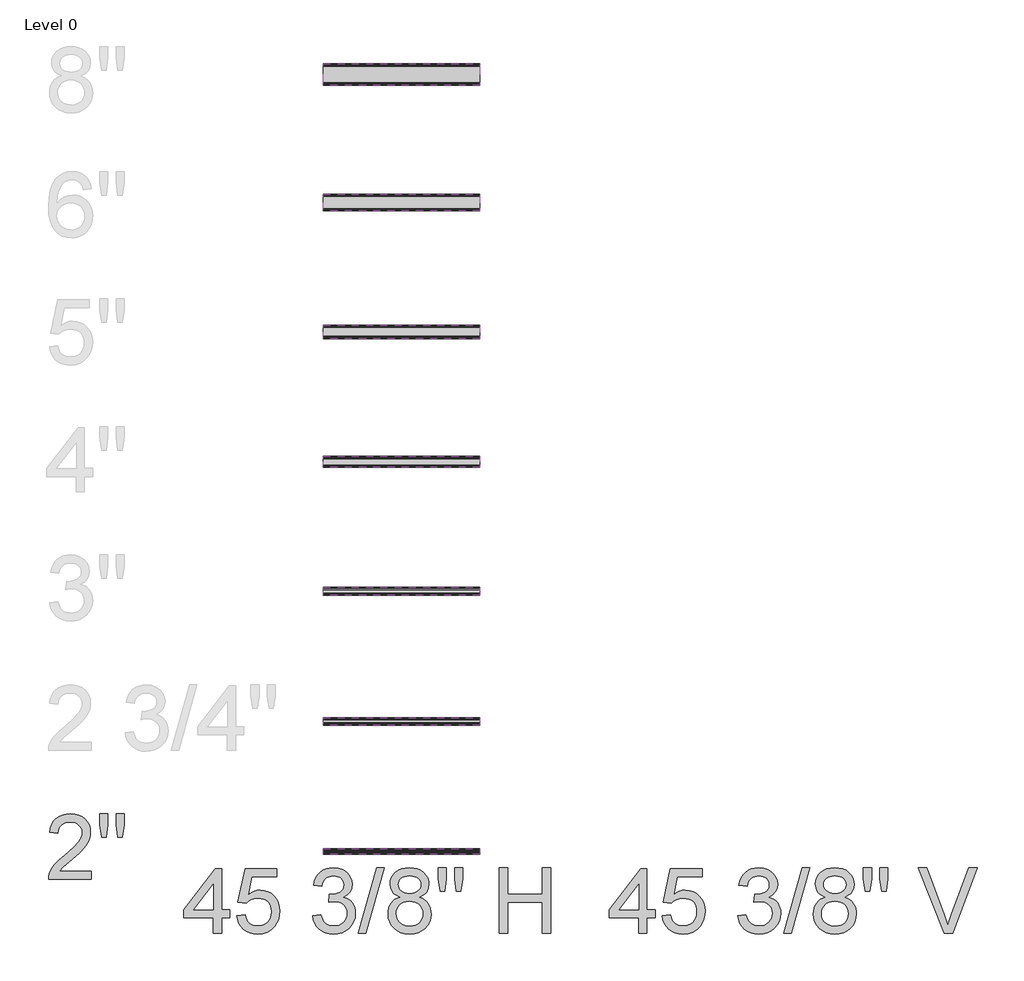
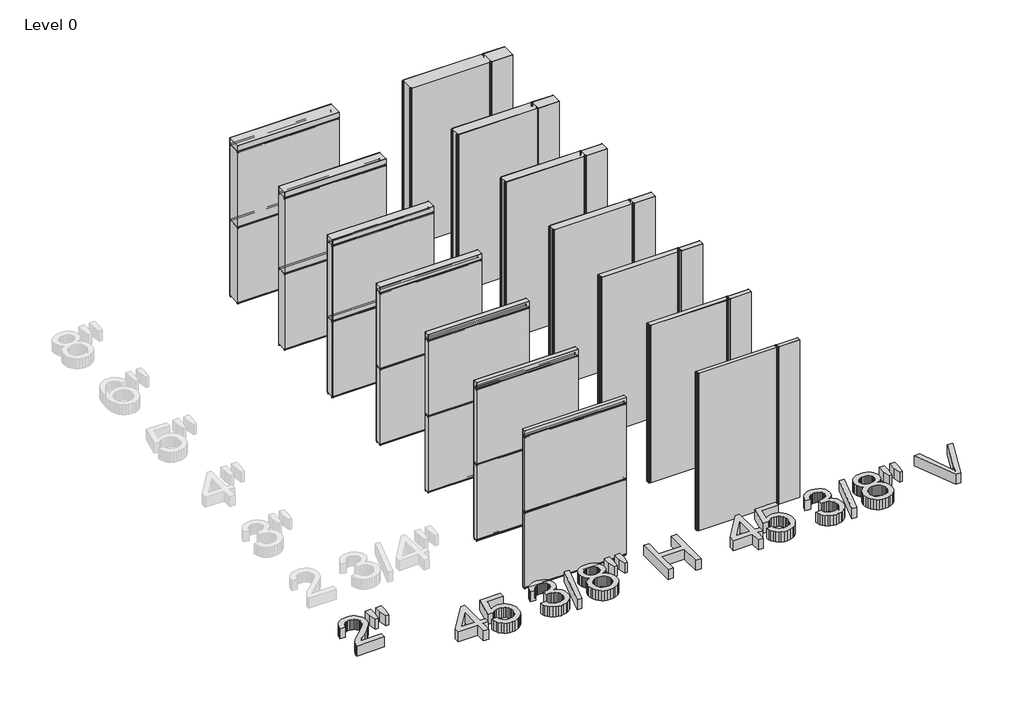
# One storey, part 1 of 4: 35 plates, 3 proxies.
"""IFC4 building model written with IfcOpenShell, lengths in millimetres."""

from ifc_helpers import new_model, si_unit, origin, origin_with_axes, place, context, project, spatial, polyline, outline, extrude, transform, mapped, element, save
from components import plate_8ef68199, plate_0830cc51, plate_e03a2b05, plate_9613dffa, plate_0367c04b, plate_f03471cd, plate_175a63a8, plate_484589e4, plate_8e9a1042, plate_46142d81, plate_aa5ba04c, plate_8ed5a4c8, plate_5a65601d, plate_65289337, plate_b911fb24, plate_469c2459, plate_55986730, plate_2b2a99c2, plate_3d51e600, plate_75d355eb, plate_b617b0d5, plate_914df59f, plate_c1554952, plate_3d7bb654, plate_006a10f5, plate_ea97ee9e, plate_32e445c0, plate_b4aca6f2

model = new_model("IFC4")

# Units and contexts
model_context = context("Model", 3, world=origin())
ifc_project = project(units=[si_unit("LENGTHUNIT", "METRE", prefix="MILLI")], contexts=[model_context])

# Site, building, storey
site = spatial("IfcSite", under=ifc_project)
building = spatial("IfcBuilding", under=site)
storey = spatial("IfcBuildingStorey", under=building, Name="Level 0", Elevation=0.0)

# Proxies
placement = place(None, origin())
element("IfcBuildingElementProxy", 1, Name="24\" Arial", ObjectType="24\" Arial", at=placement, inside=storey, context=model_context, shape_type="SweptSolid", body=[
    extrude(outline(polyline([(-10202.2863907, 6438.6033745), (-10202.2863907, 6581.3691999), (-10478.3003197, 6581.3691999), (-10478.3003197, 6657.5109734), (-10183.2509473, 7038.219841), (-10126.1446171, 7038.219841), (-10126.1446171, 6657.5109734), (-10050.0028436, 6657.5109734), (-10050.0028436, 6581.3691999), (-10126.1446171, 6581.3691999), (-10126.1446171, 6438.6033745), (-10202.2863907, 6438.6033745)]), holes=[polyline([(-10202.2863907, 6657.5109734), (-10202.2863907, 6892.7771564), (-10384.6102468, 6657.5109734), (-10202.2863907, 6657.5109734)])]), origin_with_axes(), (0.0, 0.0, 1.0), 152.4),
    extrude(outline(polyline([(-9983.3787918, 6600.4046433), (-9907.2370183, 6609.922365), (-9901.5486924, 6585.4449039), (-9893.2578645, 6564.2112758), (-9882.3645346, 6546.2214806), (-9868.8687027, 6531.4755182), (-9852.7982527, 6519.991978), (-9834.1810686, 6511.7894493), (-9813.0171503, 6506.8679321), (-9789.306498, 6505.2274264), (-9760.3071897, 6507.509263), (-9734.7283126, 6514.3547728), (-9712.5698668, 6525.7639557), (-9693.8318523, 6541.7368119), (-9678.9325282, 6561.483296), (-9668.2901538, 6584.2133628), (-9661.9047292, 6609.9270123), (-9659.7762543, 6638.6242444), (-9661.7699568, 6665.7460334), (-9667.7510641, 6689.8563557), (-9677.7195763, 6710.9552114), (-9691.6754934, 6729.0426005), (-9709.6652887, 6743.5515493), (-9731.7354353, 6753.9150841), (-9757.8859333, 6760.133205), (-9788.1167828, 6762.205912), (-9825.0537222, 6758.8970166), (-9854.9639062, 6748.9703303), (-9878.8511569, 6733.7642827), (-9897.7192966, 6714.6173035), (-9973.8610701, 6724.1350252), (-9907.2370183, 7038.219841), (-9612.1876459, 7038.219841), (-9612.1876459, 6962.0780675), (-9845.6692561, 6962.0780675), (-9878.23771, 6794.3282227), (-9851.3668766, 6813.5867377), (-9823.8454177, 6827.3428198), (-9795.6733333, 6835.5964691), (-9766.8506234, 6838.3476855), (-9729.7696168, 6834.9365489), (-9695.7093716, 6824.7031392), (-9664.6698876, 6807.6474563), (-9636.6511649, 6783.7695002), (-9613.4563656, 6754.528531), (-9596.8886519, 6721.3838088), (-9586.9480236, 6684.3353336), (-9583.6344808, 6643.3831053), (-9586.6180635, 6603.9366103), (-9595.5688115, 6567.2413317), (-9610.4867249, 6533.2972696), (-9631.3718037, 6502.1044239), (-9663.0107926, 6470.1587116), (-9699.9291427, 6447.3403456), (-9742.1268541, 6433.649326), (-9789.6039268, 6429.0856528), (-9828.89706, 6432.018115), (-9864.3886814, 6440.8155013), (-9896.0787908, 6455.4778118), (-9923.9673884, 6476.0050465), (-9947.1714824, 6501.3747939), (-9964.8080809, 6530.5646425), (-9976.8771841, 6563.5745923), (-9983.3787918, 6600.4046433)])), origin_with_axes(), (0.0, 0.0, 1.0), 152.4),
    extrude(outline(polyline([(-9279.0673868, 6600.4046433), (-9202.9256132, 6609.922365), (-9185.879225, 6562.0735063), (-9174.3863901, 6543.9768226), (-9160.9137948, 6529.7653026), (-9145.1547156, 6519.0299817), (-9126.802429, 6511.3618954), (-9105.8569351, 6506.7610436), (-9082.3182337, 6505.2274264), (-9054.7317122, 6507.3373119), (-9030.1194788, 6513.6669686), (-9008.4815334, 6524.2163965), (-8989.817876, 6538.9855955), (-8974.7884268, 6556.8685023), (-8964.053106, 6576.7590534), (-8957.6119135, 6598.657249), (-8955.4648493, 6622.5630891), (-8957.5933242, 6645.3303345), (-8963.9787488, 6666.0434622), (-8974.6211231, 6684.7024722), (-8989.5204472, 6701.3073646), (-9007.7007828, 6714.937969), (-9028.1861916, 6724.6741149), (-9050.9766736, 6730.5158025), (-9076.0722288, 6732.4630317), (-9100.1267833, 6730.3810301), (-9129.4606989, 6724.1350252), (-9120.9839781, 6800.2767987), (-9108.7893972, 6799.3845123), (-9063.1712545, 6804.8497666), (-9022.3863299, 6821.2455293), (-9005.6001919, 6833.6445926), (-8993.6100933, 6848.9807652), (-8986.4160341, 6867.2540473), (-8984.0180144, 6888.4644388), (-8985.7561139, 6905.6827781), (-8990.9704126, 6921.3489108), (-8999.6609105, 6935.4628369), (-9011.8276074, 6948.0245565), (-9026.7362262, 6958.3369708), (-9043.6524893, 6965.702981), (-9062.5763969, 6970.1225871), (-9083.5079489, 6971.5957892), (-9104.383733, 6970.1086451), (-9123.4377657, 6965.6472131), (-9140.670047, 6958.211493), (-9156.0805768, 6947.8014849), (-9169.2882746, 6934.4171888), (-9179.9120596, 6918.0586047), (-9187.9519319, 6898.7257325), (-9193.4078916, 6876.4185723), (-9269.5496651, 6885.936294), (-9260.5245598, 6922.2876704), (-9247.1309691, 6954.30774), (-9229.3688927, 6981.9965026), (-9207.2383309, 7005.3539583), (-9181.4363822, 7023.8967852), (-9152.6601456, 7037.1416616), (-9120.9096209, 7045.0885874), (-9086.1848081, 7047.7375627), (-9038.3173602, 7042.5139693), (-8994.3536653, 7026.8431893), (-8957.2866007, 7002.11942), (-8930.1090439, 6969.7368591), (-8913.4344416, 6932.4281337), (-8907.8762409, 6892.9258708), (-8913.1556021, 6856.1190565), (-8928.9936859, 6822.7326734), (-8955.1674205, 6794.2910441), (-8991.4537344, 6772.3184913), (-8966.0793397, 6764.3808601), (-8943.7907688, 6753.0599763), (-8924.5880217, 6738.3558399), (-8908.4710985, 6720.2684508), (-8895.7188385, 6699.2439523), (-8886.6100815, 6675.7284876), (-8881.1448272, 6649.7220566), (-8879.3230758, 6621.2246595), (-8882.9665786, 6582.5960937), (-8893.8970871, 6547.0161732), (-8912.1146013, 6514.4848979), (-8937.6191211, 6485.0022678), (-8968.6911364, 6460.5387487), (-9003.6111368, 6443.0648066), (-9042.3791223, 6432.5804413), (-9084.9950929, 6429.0856528), (-9123.5121229, 6432.0692355), (-9158.6087216, 6441.0199836), (-9190.2848891, 6455.937897), (-9218.5406254, 6476.8229757), (-9242.2326885, 6502.448326), (-9260.2178364, 6531.587054), (-9272.4960691, 6564.2391598), (-9279.0673868, 6600.4046433)])), origin_with_axes(), (0.0, 0.0, 1.0), 152.4),
    extrude(outline(polyline([(-8850.7699107, 6438.6033745), (-8679.4509203, 7047.7375627), (-8610.7448669, 7047.7375627), (-8782.0638573, 6438.6033745), (-8850.7699107, 6438.6033745)])), origin_with_axes(), (0.0, 0.0, 1.0), 152.4),
    extrude(outline(polyline([(-8463.8150383, 6774.1030641), (-8504.5813736, 6794.1795083), (-8520.4055153, 6806.8945896), (-8533.1903065, 6821.3942437), (-8543.047283, 6837.5390509), (-8550.0879804, 6855.1895915), (-8555.7205383, 6895.0078724), (-8552.6533038, 6926.0612984), (-8543.4516002, 6954.5308116), (-8528.1154276, 6980.4164121), (-8506.6447859, 7003.7180999), (-8480.0713813, 7022.9766148), (-8449.4269199, 7036.732697), (-8414.7114019, 7044.9863462), (-8375.9248271, 7047.7375627), (-8336.9523592, 7044.9212837), (-8301.976591, 7036.4724468), (-8270.9975222, 7022.3910519), (-8244.015153, 7002.677099), (-8222.154136, 6978.9199734), (-8206.5391239, 6952.7090602), (-8197.1701166, 6924.0443593), (-8194.0471141, 6892.9258708), (-8199.6053149, 6854.3902516), (-8216.2799171, 6821.1711721), (-8228.8323421, 6806.7691118), (-8244.2568139, 6794.1237404), (-8283.7218982, 6774.1030641), (-8258.6960528, 6763.4560424), (-8236.8582724, 6749.9555632), (-8218.208557, 6733.6016263), (-8202.7469066, 6714.3942319), (-8190.6127409, 6692.7609339), (-8181.9454797, 6669.129286), (-8176.745123, 6643.4992884), (-8175.0116708, 6615.870941), (-8178.4506913, 6577.8930007), (-8188.7677529, 6543.0752415), (-8205.9628556, 6511.4176633), (-8230.0359993, 6482.9202662), (-8259.7231117, 6459.3676228), (-8293.7601203, 6442.5443062), (-8332.1470251, 6432.4503162), (-8374.8838262, 6429.0856528), (-8417.6206273, 6432.4642582), (-8456.0075322, 6442.6000741), (-8490.0445408, 6459.4931006), (-8519.7316532, 6483.1433378), (-8543.8047969, 6511.8405699), (-8560.9998996, 6543.8745814), (-8571.3169612, 6579.2453723), (-8574.7559817, 6617.9529426), (-8572.9528196, 6646.8407151), (-8567.5433333, 6673.2746999), (-8558.5275227, 6697.2548972), (-8545.9053879, 6718.7813068), (-8529.9557683, 6737.4635535), (-8510.9575035, 6752.9112619), (-8488.9105935, 6765.1244321), (-8463.8150383, 6774.1030641)]), holes=[polyline([(-8479.5787648, 6892.7771564), (-8477.8917858, 6875.3218036), (-8472.8308489, 6859.5394877), (-8464.3959539, 6845.4302089), (-8452.587101, 6832.9939671), (-8437.5530045, 6822.8442092), (-8419.4423788, 6815.5943821), (-8398.2552239, 6811.2444858), (-8373.9915398, 6809.7945204), (-8350.3273607, 6811.2351912), (-8329.600291, 6815.5572035), (-8311.8103307, 6822.7605573), (-8296.9574799, 6832.8452527), (-8285.2462208, 6845.0212443), (-8276.8810357, 6858.4984869), (-8271.8619247, 6873.2769805), (-8270.1888877, 6889.3567252), (-8271.9176926, 6906.0638587), (-8277.1041073, 6921.3860894), (-8285.7481319, 6935.3234172), (-8297.8497663, 6947.8758421), (-8313.0372246, 6958.253319), (-8330.9387206, 6965.6658024), (-8351.5542545, 6970.1132925), (-8374.8838262, 6971.5957892), (-8398.3946436, 6970.1458237), (-8419.1077714, 6965.7959275), (-8437.0232094, 6958.5461004), (-8452.1409578, 6948.3963425), (-8464.1449984, 6936.2203509), (-8472.7193131, 6922.8918227), (-8477.8639019, 6908.4107579), (-8479.5787648, 6892.7771564)]), polyline([(-8498.6142082, 6620.6298019), (-8495.4354379, 6591.5003685), (-8485.8991269, 6563.3004001), (-8468.2950596, 6538.706756), (-8440.9130205, 6520.3962953), (-8408.121495, 6509.0196436), (-8374.2889686, 6505.2274264), (-8346.7582151, 6507.2211288), (-8322.4619997, 6513.2022361), (-8301.4003226, 6523.1707484), (-8283.5731838, 6537.1266655), (-8269.3895477, 6554.1591118), (-8259.2583792, 6573.3572115), (-8253.179678, 6594.7209647), (-8251.1534443, 6618.2503714), (-8253.2447405, 6642.1562115), (-8259.5186294, 6663.9056927), (-8269.9751107, 6683.498815), (-8284.6141846, 6700.9355786), (-8302.9246453, 6715.2493397), (-8324.395287, 6725.4734548), (-8349.0261097, 6731.6079239), (-8376.8171135, 6733.6527469), (-8403.9435497, 6731.6358078), (-8427.9190996, 6725.5849906), (-8448.7437632, 6715.5002953), (-8466.4175403, 6701.3817218), (-8480.5035825, 6684.2330924), (-8490.5650412, 6665.0582293), (-8496.6019165, 6643.8571324), (-8498.6142082, 6620.6298019)])]), origin_with_axes(), (0.0, 0.0, 1.0), 152.4),
    extrude(outline(polyline([(-8089.7983188, 6828.8299638), (-8108.3876189, 6946.4630553), (-8108.3876189, 7047.7375627), (-8032.2458454, 7047.7375627), (-8032.2458454, 6946.4630553), (-8048.9018584, 6828.8299638), (-8089.7983188, 6828.8299638)])), origin_with_axes(), (0.0, 0.0, 1.0), 152.4),
    extrude(outline(polyline([(-7937.9609149, 6828.8299638), (-7956.1040719, 6946.4630553), (-7956.1040719, 7047.7375627), (-7879.9622984, 7047.7375627), (-7879.9622984, 6946.4630553), (-7897.8080265, 6828.8299638), (-7937.9609149, 6828.8299638)])), origin_with_axes(), (0.0, 0.0, 1.0), 152.4),
    extrude(outline(polyline([(-7537.3243176, 6438.6033745), (-7537.3243176, 7047.7375627), (-7461.182544, 7047.7375627), (-7461.182544, 6800.2767987), (-7137.5800066, 6800.2767987), (-7137.5800066, 7047.7375627), (-7061.4382331, 7047.7375627), (-7061.4382331, 6438.6033745), (-7137.5800066, 6438.6033745), (-7137.5800066, 6724.1350252), (-7461.182544, 6724.1350252), (-7461.182544, 6438.6033745), (-7537.3243176, 6438.6033745)])), origin_with_axes(), (0.0, 0.0, 1.0), 152.4),
])
element("IfcBuildingElementProxy", 2, Name="24\" Arial", ObjectType="24\" Arial", at=placement, inside=storey, context=model_context, shape_type="SweptSolid", body=[
    extrude(outline(polyline([(-6239.8863907, 6438.6033745), (-6239.8863907, 6581.3691999), (-6515.9003197, 6581.3691999), (-6515.9003197, 6657.5109734), (-6220.8509473, 7038.219841), (-6163.7446171, 7038.219841), (-6163.7446171, 6657.5109734), (-6087.6028436, 6657.5109734), (-6087.6028436, 6581.3691999), (-6163.7446171, 6581.3691999), (-6163.7446171, 6438.6033745), (-6239.8863907, 6438.6033745)]), holes=[polyline([(-6239.8863907, 6657.5109734), (-6239.8863907, 6892.7771564), (-6422.2102468, 6657.5109734), (-6239.8863907, 6657.5109734)])]), origin_with_axes(), (0.0, 0.0, 1.0), 152.4),
    extrude(outline(polyline([(-6020.9787918, 6600.4046433), (-5944.8370183, 6609.922365), (-5939.1486924, 6585.4449039), (-5930.8578645, 6564.2112758), (-5919.9645346, 6546.2214806), (-5906.4687027, 6531.4755182), (-5890.3982527, 6519.991978), (-5871.7810686, 6511.7894493), (-5850.6171503, 6506.8679321), (-5826.906498, 6505.2274264), (-5797.9071897, 6507.509263), (-5772.3283126, 6514.3547728), (-5750.1698668, 6525.7639557), (-5731.4318523, 6541.7368119), (-5716.5325282, 6561.483296), (-5705.8901538, 6584.2133628), (-5699.5047292, 6609.9270123), (-5697.3762543, 6638.6242444), (-5699.3699568, 6665.7460334), (-5705.3510641, 6689.8563557), (-5715.3195763, 6710.9552114), (-5729.2754934, 6729.0426005), (-5747.2652887, 6743.5515493), (-5769.3354353, 6753.9150841), (-5795.4859333, 6760.133205), (-5825.7167828, 6762.205912), (-5862.6537222, 6758.8970166), (-5892.5639062, 6748.9703303), (-5916.4511569, 6733.7642827), (-5935.3192966, 6714.6173035), (-6011.4610701, 6724.1350252), (-5944.8370183, 7038.219841), (-5649.7876459, 7038.219841), (-5649.7876459, 6962.0780675), (-5883.2692561, 6962.0780675), (-5915.83771, 6794.3282227), (-5888.9668766, 6813.5867377), (-5861.4454177, 6827.3428198), (-5833.2733333, 6835.5964691), (-5804.4506234, 6838.3476855), (-5767.3696168, 6834.9365489), (-5733.3093716, 6824.7031392), (-5702.2698876, 6807.6474563), (-5674.2511649, 6783.7695002), (-5651.0563656, 6754.528531), (-5634.4886519, 6721.3838088), (-5624.5480236, 6684.3353336), (-5621.2344808, 6643.3831053), (-5624.2180635, 6603.9366103), (-5633.1688115, 6567.2413317), (-5648.0867249, 6533.2972696), (-5668.9718037, 6502.1044239), (-5700.6107926, 6470.1587116), (-5737.5291427, 6447.3403456), (-5779.7268541, 6433.649326), (-5827.2039268, 6429.0856528), (-5866.49706, 6432.018115), (-5901.9886814, 6440.8155013), (-5933.6787908, 6455.4778118), (-5961.5673884, 6476.0050465), (-5984.7714824, 6501.3747939), (-6002.4080809, 6530.5646425), (-6014.4771841, 6563.5745923), (-6020.9787918, 6600.4046433)])), origin_with_axes(), (0.0, 0.0, 1.0), 152.4),
    extrude(outline(polyline([(-5316.6673868, 6600.4046433), (-5240.5256132, 6609.922365), (-5223.479225, 6562.0735063), (-5211.9863901, 6543.9768226), (-5198.5137948, 6529.7653026), (-5182.7547156, 6519.0299817), (-5164.402429, 6511.3618954), (-5143.4569351, 6506.7610436), (-5119.9182337, 6505.2274264), (-5092.3317122, 6507.3373119), (-5067.7194788, 6513.6669686), (-5046.0815334, 6524.2163965), (-5027.417876, 6538.9855955), (-5012.3884268, 6556.8685023), (-5001.653106, 6576.7590534), (-4995.2119135, 6598.657249), (-4993.0648493, 6622.5630891), (-4995.1933242, 6645.3303345), (-5001.5787488, 6666.0434622), (-5012.2211231, 6684.7024722), (-5027.1204472, 6701.3073646), (-5045.3007828, 6714.937969), (-5065.7861916, 6724.6741149), (-5088.5766736, 6730.5158025), (-5113.6722288, 6732.4630317), (-5137.7267833, 6730.3810301), (-5167.0606989, 6724.1350252), (-5158.5839781, 6800.2767987), (-5146.3893972, 6799.3845123), (-5100.7712545, 6804.8497666), (-5059.9863299, 6821.2455293), (-5043.2001919, 6833.6445926), (-5031.2100933, 6848.9807652), (-5024.0160341, 6867.2540473), (-5021.6180144, 6888.4644388), (-5023.3561139, 6905.6827781), (-5028.5704126, 6921.3489108), (-5037.2609105, 6935.4628369), (-5049.4276074, 6948.0245565), (-5064.3362262, 6958.3369708), (-5081.2524893, 6965.702981), (-5100.1763969, 6970.1225871), (-5121.1079489, 6971.5957892), (-5141.983733, 6970.1086451), (-5161.0377657, 6965.6472131), (-5178.270047, 6958.211493), (-5193.6805768, 6947.8014849), (-5206.8882746, 6934.4171888), (-5217.5120596, 6918.0586047), (-5225.5519319, 6898.7257325), (-5231.0078916, 6876.4185723), (-5307.1496651, 6885.936294), (-5298.1245598, 6922.2876704), (-5284.7309691, 6954.30774), (-5266.9688927, 6981.9965026), (-5244.8383309, 7005.3539583), (-5219.0363822, 7023.8967852), (-5190.2601456, 7037.1416616), (-5158.5096209, 7045.0885874), (-5123.7848081, 7047.7375627), (-5075.9173602, 7042.5139693), (-5031.9536653, 7026.8431893), (-4994.8866007, 7002.11942), (-4967.7090439, 6969.7368591), (-4951.0344416, 6932.4281337), (-4945.4762409, 6892.9258708), (-4950.7556021, 6856.1190565), (-4966.5936859, 6822.7326734), (-4992.7674205, 6794.2910441), (-5029.0537344, 6772.3184913), (-5003.6793397, 6764.3808601), (-4981.3907688, 6753.0599763), (-4962.1880217, 6738.3558399), (-4946.0710985, 6720.2684508), (-4933.3188385, 6699.2439523), (-4924.2100815, 6675.7284876), (-4918.7448272, 6649.7220566), (-4916.9230758, 6621.2246595), (-4920.5665786, 6582.5960937), (-4931.4970871, 6547.0161732), (-4949.7146013, 6514.4848979), (-4975.2191211, 6485.0022678), (-5006.2911364, 6460.5387487), (-5041.2111368, 6443.0648066), (-5079.9791223, 6432.5804413), (-5122.5950929, 6429.0856528), (-5161.1121229, 6432.0692355), (-5196.2087216, 6441.0199836), (-5227.8848891, 6455.937897), (-5256.1406254, 6476.8229757), (-5279.8326885, 6502.448326), (-5297.8178364, 6531.587054), (-5310.0960691, 6564.2391598), (-5316.6673868, 6600.4046433)])), origin_with_axes(), (0.0, 0.0, 1.0), 152.4),
    extrude(outline(polyline([(-4888.3699107, 6438.6033745), (-4717.0509203, 7047.7375627), (-4648.3448669, 7047.7375627), (-4819.6638573, 6438.6033745), (-4888.3699107, 6438.6033745)])), origin_with_axes(), (0.0, 0.0, 1.0), 152.4),
    extrude(outline(polyline([(-4501.4150383, 6774.1030641), (-4542.1813736, 6794.1795083), (-4558.0055153, 6806.8945896), (-4570.7903065, 6821.3942437), (-4580.647283, 6837.5390509), (-4587.6879804, 6855.1895915), (-4593.3205383, 6895.0078724), (-4590.2533038, 6926.0612984), (-4581.0516002, 6954.5308116), (-4565.7154276, 6980.4164121), (-4544.2447859, 7003.7180999), (-4517.6713813, 7022.9766148), (-4487.0269199, 7036.732697), (-4452.3114019, 7044.9863462), (-4413.5248271, 7047.7375627), (-4374.5523592, 7044.9212837), (-4339.576591, 7036.4724468), (-4308.5975222, 7022.3910519), (-4281.615153, 7002.677099), (-4259.754136, 6978.9199734), (-4244.1391239, 6952.7090602), (-4234.7701166, 6924.0443593), (-4231.6471141, 6892.9258708), (-4237.2053149, 6854.3902516), (-4253.8799171, 6821.1711721), (-4266.4323421, 6806.7691118), (-4281.8568139, 6794.1237404), (-4321.3218982, 6774.1030641), (-4296.2960528, 6763.4560424), (-4274.4582724, 6749.9555632), (-4255.808557, 6733.6016263), (-4240.3469066, 6714.3942319), (-4228.2127409, 6692.7609339), (-4219.5454797, 6669.129286), (-4214.345123, 6643.4992884), (-4212.6116708, 6615.870941), (-4216.0506913, 6577.8930007), (-4226.3677529, 6543.0752415), (-4243.5628556, 6511.4176633), (-4267.6359993, 6482.9202662), (-4297.3231117, 6459.3676228), (-4331.3601203, 6442.5443062), (-4369.7470251, 6432.4503162), (-4412.4838262, 6429.0856528), (-4455.2206273, 6432.4642582), (-4493.6075322, 6442.6000741), (-4527.6445408, 6459.4931006), (-4557.3316532, 6483.1433378), (-4581.4047969, 6511.8405699), (-4598.5998996, 6543.8745814), (-4608.9169612, 6579.2453723), (-4612.3559817, 6617.9529426), (-4610.5528196, 6646.8407151), (-4605.1433333, 6673.2746999), (-4596.1275227, 6697.2548972), (-4583.5053879, 6718.7813068), (-4567.5557683, 6737.4635535), (-4548.5575035, 6752.9112619), (-4526.5105935, 6765.1244321), (-4501.4150383, 6774.1030641)]), holes=[polyline([(-4517.1787648, 6892.7771564), (-4515.4917858, 6875.3218036), (-4510.4308489, 6859.5394877), (-4501.9959539, 6845.4302089), (-4490.187101, 6832.9939671), (-4475.1530045, 6822.8442092), (-4457.0423788, 6815.5943821), (-4435.8552239, 6811.2444858), (-4411.5915398, 6809.7945204), (-4387.9273607, 6811.2351912), (-4367.200291, 6815.5572035), (-4349.4103307, 6822.7605573), (-4334.5574799, 6832.8452527), (-4322.8462208, 6845.0212443), (-4314.4810357, 6858.4984869), (-4309.4619247, 6873.2769805), (-4307.7888877, 6889.3567252), (-4309.5176926, 6906.0638587), (-4314.7041073, 6921.3860894), (-4323.3481319, 6935.3234172), (-4335.4497663, 6947.8758421), (-4350.6372246, 6958.253319), (-4368.5387206, 6965.6658024), (-4389.1542545, 6970.1132925), (-4412.4838262, 6971.5957892), (-4435.9946436, 6970.1458237), (-4456.7077714, 6965.7959275), (-4474.6232094, 6958.5461004), (-4489.7409578, 6948.3963425), (-4501.7449984, 6936.2203509), (-4510.3193131, 6922.8918227), (-4515.4639019, 6908.4107579), (-4517.1787648, 6892.7771564)]), polyline([(-4536.2142082, 6620.6298019), (-4533.0354379, 6591.5003685), (-4523.4991269, 6563.3004001), (-4505.8950596, 6538.706756), (-4478.5130205, 6520.3962953), (-4445.721495, 6509.0196436), (-4411.8889686, 6505.2274264), (-4384.3582151, 6507.2211288), (-4360.0619997, 6513.2022361), (-4339.0003226, 6523.1707484), (-4321.1731838, 6537.1266655), (-4306.9895477, 6554.1591118), (-4296.8583792, 6573.3572115), (-4290.779678, 6594.7209647), (-4288.7534443, 6618.2503714), (-4290.8447405, 6642.1562115), (-4297.1186294, 6663.9056927), (-4307.5751107, 6683.498815), (-4322.2141846, 6700.9355786), (-4340.5246453, 6715.2493397), (-4361.995287, 6725.4734548), (-4386.6261097, 6731.6079239), (-4414.4171135, 6733.6527469), (-4441.5435497, 6731.6358078), (-4465.5190996, 6725.5849906), (-4486.3437632, 6715.5002953), (-4504.0175403, 6701.3817218), (-4518.1035825, 6684.2330924), (-4528.1650412, 6665.0582293), (-4534.2019165, 6643.8571324), (-4536.2142082, 6620.6298019)])]), origin_with_axes(), (0.0, 0.0, 1.0), 152.4),
    extrude(outline(polyline([(-4127.3983188, 6828.8299638), (-4145.9876189, 6946.4630553), (-4145.9876189, 7047.7375627), (-4069.8458454, 7047.7375627), (-4069.8458454, 6946.4630553), (-4086.5018584, 6828.8299638), (-4127.3983188, 6828.8299638)])), origin_with_axes(), (0.0, 0.0, 1.0), 152.4),
    extrude(outline(polyline([(-3975.5609149, 6828.8299638), (-3993.7040719, 6946.4630553), (-3993.7040719, 7047.7375627), (-3917.5622984, 7047.7375627), (-3917.5622984, 6946.4630553), (-3935.4080265, 6828.8299638), (-3975.5609149, 6828.8299638)])), origin_with_axes(), (0.0, 0.0, 1.0), 152.4),
    extrude(outline(polyline([(-3394.9798919, 6438.6033745), (-3637.3843661, 7047.7375627), (-3555.8888742, 7047.7375627), (-3393.6414622, 6608.8813641), (-3360.7755795, 6509.9862872), (-3328.35584, 6608.8813641), (-3165.6622849, 7047.7375627), (-3084.1667929, 7047.7375627), (-3316.3099735, 6438.6033745), (-3394.9798919, 6438.6033745)])), origin_with_axes(), (0.0, 0.0, 1.0), 152.4),
])
element("IfcBuildingElementProxy", 3, Name="24\" Arial", ObjectType="24\" Arial", at=placement, inside=storey, context=model_context, shape_type="SweptSolid", body=[
    extrude(outline(polyline([(-11338.064642, 7016.681133), (-11338.064642, 6940.5393595), (-11737.808953, 6940.5393595), (-11736.135916, 6967.3451304), (-11729.6296609, 6993.0355432), (-11710.8544677, 7034.0621287), (-11683.3794821, 7073.8618204), (-11643.6355583, 7115.520442), (-11588.0535508, 7162.1238176), (-11505.888844, 7235.1054101), (-11456.5900199, 7288.977202), (-11442.2111963, 7310.9869334), (-11431.9406079, 7332.699236), (-11425.7782549, 7354.1141098), (-11423.7241372, 7375.2315548), (-11425.6620718, 7395.0988694), (-11431.4758754, 7413.3582095), (-11441.1655481, 7430.0095751), (-11454.7310899, 7445.0529662), (-11471.4196342, 7457.5124447), (-11490.4783142, 7466.4120722), (-11511.9071299, 7471.7518486), (-11535.7060815, 7473.5317741), (-11560.7784001, 7471.7936746), (-11583.2017434, 7466.5793759), (-11602.9761115, 7457.888878), (-11620.1015043, 7445.7221811), (-11633.9551802, 7430.4882496), (-11643.9143978, 7412.5960481), (-11649.979157, 7392.0455768), (-11652.1494578, 7368.8368355), (-11728.2912313, 7378.3545572), (-11721.7431503, 7417.6616324), (-11709.8320562, 7452.0053645), (-11692.557949, 7481.3857534), (-11669.9208288, 7505.8027992), (-11642.4411958, 7524.9962517), (-11610.6395505, 7538.7058605), (-11574.5158929, 7546.9316259), (-11534.0702231, 7549.6735476), (-11493.2620619, 7546.6249024), (-11456.9432167, 7537.4789667), (-11425.1136874, 7522.2357406), (-11397.7734742, 7500.895224), (-11375.8148634, 7475.0375074), (-11360.1301413, 7446.2426815), (-11350.7193081, 7414.5107461), (-11347.5823637, 7379.8417012), (-11350.9656164, 7343.4252622), (-11361.1153742, 7307.6408594), (-11379.1284061, 7271.2430096), (-11406.1014807, 7232.9862299), (-11449.098532, 7187.3123193), (-11515.1834941, 7128.6630773), (-11602.7762765, 7055.4212346), (-11637.1293032, 7016.681133), (-11338.064642, 7016.681133)])), origin_with_axes(), (0.0, 0.0, 1.0), 152.4),
    extrude(outline(polyline([(-11243.3335683, 7330.7659488), (-11261.9228685, 7448.3990403), (-11261.9228685, 7549.6735476), (-11185.781095, 7549.6735476), (-11185.781095, 7448.3990403), (-11202.437108, 7330.7659488), (-11243.3335683, 7330.7659488)])), origin_with_axes(), (0.0, 0.0, 1.0), 152.4),
    extrude(outline(polyline([(-11091.4961645, 7330.7659488), (-11109.6393215, 7448.3990403), (-11109.6393215, 7549.6735476), (-11033.497548, 7549.6735476), (-11033.497548, 7448.3990403), (-11051.3432761, 7330.7659488), (-11091.4961645, 7330.7659488)])), origin_with_axes(), (0.0, 0.0, 1.0), 152.4),
])

# Plates
plate_shape = plate_8ef68199(model_context)
element("IfcPlate", 4, ObjectType="KIP-SLI-FLI-R19-CP-Hz-FL_FL : Hz 2\"", at=placement, inside=storey, context=model_context, shape_type="MappedRepresentation", body=[
    mapped(plate_shape, transform((-8448.7250935, 7224.2207172, 0.0), x_axis=(1.0, 0.0, 0.0), y_axis=(0.0, 1.0, 0.0), z_axis=(0.0, 0.0, 1.0))),
])
element("IfcPlate", 5, ObjectType="KIP-SLI-FLI-R19-CP-Hz-FL_FL : Hz 2\"", at=placement, inside=storey, context=model_context, shape_type="MappedRepresentation", body=[
    mapped(plate_shape, transform((-8448.7250935, 7224.2207172, 1152.525), x_axis=(1.0, 0.0, 0.0), y_axis=(0.0, 1.0, 0.0), z_axis=(0.0, 0.0, 1.0))),
])
plate_2_shape = plate_0830cc51(model_context)
element("IfcPlate", 6, ObjectType="KIP-SLI-FLI-R19-CP-Hz-FL_FL : Hz 2\"", at=placement, inside=storey, context=model_context, shape_type="MappedRepresentation", body=[
    mapped(plate_2_shape, transform((-8448.7250935, 7224.2207172, 2305.05), x_axis=(1.0, 0.0, 0.0), y_axis=(0.0, 1.0, 0.0), z_axis=(0.0, 0.0, 1.0))),
])
plate_3_shape = plate_e03a2b05(model_context)
element("IfcPlate", 7, ObjectType="KIP-SLI-FLI-R19-CP-Hz-FL_FL : Hz 2.75\"", at=placement, inside=storey, context=model_context, shape_type="MappedRepresentation", body=[
    mapped(plate_3_shape, transform((-8448.7250935, 8443.4207172, 0.0), x_axis=(1.0, 0.0, 0.0), y_axis=(0.0, 1.0, 0.0), z_axis=(0.0, 0.0, 1.0))),
])
element("IfcPlate", 8, ObjectType="KIP-SLI-FLI-R19-CP-Hz-FL_FL : Hz 2.75\"", at=placement, inside=storey, context=model_context, shape_type="MappedRepresentation", body=[
    mapped(plate_3_shape, transform((-8448.7250935, 8443.4207172, 1152.525), x_axis=(1.0, 0.0, 0.0), y_axis=(0.0, 1.0, 0.0), z_axis=(0.0, 0.0, 1.0))),
])
plate_4_shape = plate_9613dffa(model_context)
element("IfcPlate", 9, ObjectType="KIP-SLI-FLI-R19-CP-Hz-FL_FL : Hz 2.75\"", at=placement, inside=storey, context=model_context, shape_type="MappedRepresentation", body=[
    mapped(plate_4_shape, transform((-8448.7250935, 8443.4207172, 2305.05), x_axis=(1.0, 0.0, 0.0), y_axis=(0.0, 1.0, 0.0), z_axis=(0.0, 0.0, 1.0))),
])
plate_5_shape = plate_0367c04b(model_context)
element("IfcPlate", 10, ObjectType="KIP-SLI-FLI-R19-CP-Hz-FL_FL : Hz 3\"", at=placement, inside=storey, context=model_context, shape_type="MappedRepresentation", body=[
    mapped(plate_5_shape, transform((-8448.7250935, 9662.6207172, 0.0), x_axis=(1.0, 0.0, 0.0), y_axis=(0.0, 1.0, 0.0), z_axis=(0.0, 0.0, 1.0))),
])
element("IfcPlate", 11, ObjectType="KIP-SLI-FLI-R19-CP-Hz-FL_FL : Hz 3\"", at=placement, inside=storey, context=model_context, shape_type="MappedRepresentation", body=[
    mapped(plate_5_shape, transform((-8448.7250935, 9662.6207172, 1152.525), x_axis=(1.0, 0.0, 0.0), y_axis=(0.0, 1.0, 0.0), z_axis=(0.0, 0.0, 1.0))),
])
plate_6_shape = plate_f03471cd(model_context)
element("IfcPlate", 12, ObjectType="KIP-SLI-FLI-R19-CP-Hz-FL_FL : Hz 3\"", at=placement, inside=storey, context=model_context, shape_type="MappedRepresentation", body=[
    mapped(plate_6_shape, transform((-8448.7250935, 9662.6207172, 2305.05), x_axis=(1.0, 0.0, 0.0), y_axis=(0.0, 1.0, 0.0), z_axis=(0.0, 0.0, 1.0))),
])
plate_7_shape = plate_175a63a8(model_context)
element("IfcPlate", 13, ObjectType="KIP-SLI-FLI-R19-CP-Hz-FL_FL : Hz 4\"", at=placement, inside=storey, context=model_context, shape_type="MappedRepresentation", body=[
    mapped(plate_7_shape, transform((-8448.7250935, 10881.8207172, 0.0), x_axis=(1.0, 0.0, 0.0), y_axis=(0.0, 1.0, 0.0), z_axis=(0.0, 0.0, 1.0))),
])
element("IfcPlate", 14, ObjectType="KIP-SLI-FLI-R19-CP-Hz-FL_FL : Hz 4\"", at=placement, inside=storey, context=model_context, shape_type="MappedRepresentation", body=[
    mapped(plate_7_shape, transform((-8448.7250935, 10881.8207172, 1152.525), x_axis=(1.0, 0.0, 0.0), y_axis=(0.0, 1.0, 0.0), z_axis=(0.0, 0.0, 1.0))),
])
plate_8_shape = plate_484589e4(model_context)
element("IfcPlate", 15, ObjectType="KIP-SLI-FLI-R19-CP-Hz-FL_FL : Hz 4\"", at=placement, inside=storey, context=model_context, shape_type="MappedRepresentation", body=[
    mapped(plate_8_shape, transform((-8448.7250935, 10881.8207172, 2305.05), x_axis=(1.0, 0.0, 0.0), y_axis=(0.0, 1.0, 0.0), z_axis=(0.0, 0.0, 1.0))),
])
plate_9_shape = plate_8e9a1042(model_context)
element("IfcPlate", 16, ObjectType="KIP-SLI-FLI-R19-CP-Hz-FL_FL : Hz 5\"", at=placement, inside=storey, context=model_context, shape_type="MappedRepresentation", body=[
    mapped(plate_9_shape, transform((-8448.7250935, 12101.0207172, 2305.05), x_axis=(1.0, 0.0, 0.0), y_axis=(0.0, 1.0, 0.0), z_axis=(0.0, 0.0, 1.0))),
])
plate_10_shape = plate_46142d81(model_context)
element("IfcPlate", 17, ObjectType="KIP-SLI-FLI-R19-CP-Hz-FL_FL : Hz 5\"", at=placement, inside=storey, context=model_context, shape_type="MappedRepresentation", body=[
    mapped(plate_10_shape, transform((-8448.7250935, 12101.0207172, 0.0), x_axis=(1.0, 0.0, 0.0), y_axis=(0.0, 1.0, 0.0), z_axis=(0.0, 0.0, 1.0))),
])
element("IfcPlate", 18, ObjectType="KIP-SLI-FLI-R19-CP-Hz-FL_FL : Hz 5\"", at=placement, inside=storey, context=model_context, shape_type="MappedRepresentation", body=[
    mapped(plate_10_shape, transform((-8448.7250935, 12101.0207172, 1152.525), x_axis=(1.0, 0.0, 0.0), y_axis=(0.0, 1.0, 0.0), z_axis=(0.0, 0.0, 1.0))),
])
plate_11_shape = plate_aa5ba04c(model_context)
element("IfcPlate", 19, ObjectType="KIP-SLI-FLI-R19-CP-Hz-FL_FL : Hz 6\"", at=placement, inside=storey, context=model_context, shape_type="MappedRepresentation", body=[
    mapped(plate_11_shape, transform((-8448.7250935, 13320.2207172, 0.0), x_axis=(1.0, 0.0, 0.0), y_axis=(0.0, 1.0, 0.0), z_axis=(0.0, 0.0, 1.0))),
])
element("IfcPlate", 20, ObjectType="KIP-SLI-FLI-R19-CP-Hz-FL_FL : Hz 6\"", at=placement, inside=storey, context=model_context, shape_type="MappedRepresentation", body=[
    mapped(plate_11_shape, transform((-8448.7250935, 13320.2207172, 1152.525), x_axis=(1.0, 0.0, 0.0), y_axis=(0.0, 1.0, 0.0), z_axis=(0.0, 0.0, 1.0))),
])
plate_12_shape = plate_8ed5a4c8(model_context)
element("IfcPlate", 21, ObjectType="KIP-SLI-FLI-R19-CP-Hz-FL_FL : Hz 6\"", at=placement, inside=storey, context=model_context, shape_type="MappedRepresentation", body=[
    mapped(plate_12_shape, transform((-8448.7250935, 13320.2207172, 2305.05), x_axis=(1.0, 0.0, 0.0), y_axis=(0.0, 1.0, 0.0), z_axis=(0.0, 0.0, 1.0))),
])
plate_13_shape = plate_5a65601d(model_context)
element("IfcPlate", 22, ObjectType="KIP-SLI-FLI-R19-CP-Hz-FL_FL : Hz 8\"", at=placement, inside=storey, context=model_context, shape_type="MappedRepresentation", body=[
    mapped(plate_13_shape, transform((-8448.7250935, 14539.4207172, 0.0), x_axis=(1.0, 0.0, 0.0), y_axis=(0.0, 1.0, 0.0), z_axis=(0.0, 0.0, 1.0))),
])
element("IfcPlate", 23, ObjectType="KIP-SLI-FLI-R19-CP-Hz-FL_FL : Hz 8\"", at=placement, inside=storey, context=model_context, shape_type="MappedRepresentation", body=[
    mapped(plate_13_shape, transform((-8448.7250935, 14539.4207172, 1152.525), x_axis=(1.0, 0.0, 0.0), y_axis=(0.0, 1.0, 0.0), z_axis=(0.0, 0.0, 1.0))),
])
plate_14_shape = plate_65289337(model_context)
element("IfcPlate", 24, ObjectType="KIP-SLI-FLI-R19-CP-Hz-FL_FL : Hz 8\"", at=placement, inside=storey, context=model_context, shape_type="MappedRepresentation", body=[
    mapped(plate_14_shape, transform((-8448.7250935, 14539.4207172, 2305.05), x_axis=(1.0, 0.0, 0.0), y_axis=(0.0, 1.0, 0.0), z_axis=(0.0, 0.0, 1.0))),
])
plate_15_shape = plate_b911fb24(model_context)
element("IfcPlate", 25, ObjectType="KIP-SLI-FLI-R19-CP-Vt-FL_FL : Vt 2\"", at=placement, inside=storey, context=model_context, shape_type="MappedRepresentation", body=[
    mapped(plate_15_shape, transform((-6102.6788834, 7224.2207172, 0.0), x_axis=(1.0, 0.0, 0.0), y_axis=(0.0, 1.0, 0.0), z_axis=(0.0, 0.0, 1.0))),
])
plate_16_shape = plate_469c2459(model_context)
element("IfcPlate", 26, ObjectType="KIP-SLI-FLI-R19-CP-Vt-FL_FL : Vt 2\"", at=placement, inside=storey, context=model_context, shape_type="MappedRepresentation", body=[
    mapped(plate_16_shape, transform((-5372.6788834, 7224.2207172, 0.0), x_axis=(1.0, 0.0, 0.0), y_axis=(0.0, 1.0, 0.0), z_axis=(0.0, 0.0, 1.0))),
])
plate_17_shape = plate_55986730(model_context)
element("IfcPlate", 27, ObjectType="KIP-SLI-FLI-R19-CP-Vt-FL_FL : Vt 2.75\"", at=placement, inside=storey, context=model_context, shape_type="MappedRepresentation", body=[
    mapped(plate_17_shape, transform((-6102.6788834, 8443.4207172, 0.0), x_axis=(1.0, 0.0, 0.0), y_axis=(0.0, 1.0, 0.0), z_axis=(0.0, 0.0, 1.0))),
])
plate_18_shape = plate_2b2a99c2(model_context)
element("IfcPlate", 28, ObjectType="KIP-SLI-FLI-R19-CP-Vt-FL_FL : Vt 2.75\"", at=placement, inside=storey, context=model_context, shape_type="MappedRepresentation", body=[
    mapped(plate_18_shape, transform((-5372.6788834, 8443.4207172, 0.0), x_axis=(1.0, 0.0, 0.0), y_axis=(0.0, 1.0, 0.0), z_axis=(0.0, 0.0, 1.0))),
])
plate_19_shape = plate_3d51e600(model_context)
element("IfcPlate", 29, ObjectType="KIP-SLI-FLI-R19-CP-Vt-FL_FL : Vt 3\"", at=placement, inside=storey, context=model_context, shape_type="MappedRepresentation", body=[
    mapped(plate_19_shape, transform((-6102.6788834, 9662.6207172, 0.0), x_axis=(1.0, 0.0, 0.0), y_axis=(0.0, 1.0, 0.0), z_axis=(0.0, 0.0, 1.0))),
])
plate_20_shape = plate_75d355eb(model_context)
element("IfcPlate", 30, ObjectType="KIP-SLI-FLI-R19-CP-Vt-FL_FL : Vt 3\"", at=placement, inside=storey, context=model_context, shape_type="MappedRepresentation", body=[
    mapped(plate_20_shape, transform((-5372.6788834, 9662.6207172, 0.0), x_axis=(1.0, 0.0, 0.0), y_axis=(0.0, 1.0, 0.0), z_axis=(0.0, 0.0, 1.0))),
])
plate_21_shape = plate_b617b0d5(model_context)
element("IfcPlate", 31, ObjectType="KIP-SLI-FLI-R19-CP-Vt-FL_FL : Vt 4\"", at=placement, inside=storey, context=model_context, shape_type="MappedRepresentation", body=[
    mapped(plate_21_shape, transform((-6102.6788834, 10881.8207172, 0.0), x_axis=(1.0, 0.0, 0.0), y_axis=(0.0, 1.0, 0.0), z_axis=(0.0, 0.0, 1.0))),
])
plate_22_shape = plate_914df59f(model_context)
element("IfcPlate", 32, ObjectType="KIP-SLI-FLI-R19-CP-Vt-FL_FL : Vt 4\"", at=placement, inside=storey, context=model_context, shape_type="MappedRepresentation", body=[
    mapped(plate_22_shape, transform((-5372.6788834, 10881.8207172, 0.0), x_axis=(1.0, 0.0, 0.0), y_axis=(0.0, 1.0, 0.0), z_axis=(0.0, 0.0, 1.0))),
])
plate_23_shape = plate_c1554952(model_context)
element("IfcPlate", 33, ObjectType="KIP-SLI-FLI-R19-CP-Vt-FL_FL : Vt 5\"", at=placement, inside=storey, context=model_context, shape_type="MappedRepresentation", body=[
    mapped(plate_23_shape, transform((-6102.6788834, 12101.0207172, 0.0), x_axis=(1.0, 0.0, 0.0), y_axis=(0.0, 1.0, 0.0), z_axis=(0.0, 0.0, 1.0))),
])
plate_24_shape = plate_3d7bb654(model_context)
element("IfcPlate", 34, ObjectType="KIP-SLI-FLI-R19-CP-Vt-FL_FL : Vt 5\"", at=placement, inside=storey, context=model_context, shape_type="MappedRepresentation", body=[
    mapped(plate_24_shape, transform((-5372.6788834, 12101.0207172, 0.0), x_axis=(1.0, 0.0, 0.0), y_axis=(0.0, 1.0, 0.0), z_axis=(0.0, 0.0, 1.0))),
])
plate_25_shape = plate_006a10f5(model_context)
element("IfcPlate", 35, ObjectType="KIP-SLI-FLI-R19-CP-Vt-FL_FL : Vt 6\"", at=placement, inside=storey, context=model_context, shape_type="MappedRepresentation", body=[
    mapped(plate_25_shape, transform((-6102.6788834, 13320.2207172, 0.0), x_axis=(1.0, 0.0, 0.0), y_axis=(0.0, 1.0, 0.0), z_axis=(0.0, 0.0, 1.0))),
])
plate_26_shape = plate_ea97ee9e(model_context)
element("IfcPlate", 36, ObjectType="KIP-SLI-FLI-R19-CP-Vt-FL_FL : Vt 6\"", at=placement, inside=storey, context=model_context, shape_type="MappedRepresentation", body=[
    mapped(plate_26_shape, transform((-5372.6788834, 13320.2207172, 0.0), x_axis=(1.0, 0.0, 0.0), y_axis=(0.0, 1.0, 0.0), z_axis=(0.0, 0.0, 1.0))),
])
plate_27_shape = plate_32e445c0(model_context)
element("IfcPlate", 37, ObjectType="KIP-SLI-FLI-R19-CP-Vt-FL_FL : Vt 8\"", at=placement, inside=storey, context=model_context, shape_type="MappedRepresentation", body=[
    mapped(plate_27_shape, transform((-6102.6788834, 14539.4207172, 0.0), x_axis=(1.0, 0.0, 0.0), y_axis=(0.0, 1.0, 0.0), z_axis=(0.0, 0.0, 1.0))),
])
plate_28_shape = plate_b4aca6f2(model_context)
element("IfcPlate", 38, ObjectType="KIP-SLI-FLI-R19-CP-Vt-FL_FL : Vt 8\"", at=placement, inside=storey, context=model_context, shape_type="MappedRepresentation", body=[
    mapped(plate_28_shape, transform((-5372.6788834, 14539.4207172, 0.0), x_axis=(1.0, 0.0, 0.0), y_axis=(0.0, 1.0, 0.0), z_axis=(0.0, 0.0, 1.0))),
])

save(model, "model.ifc")
